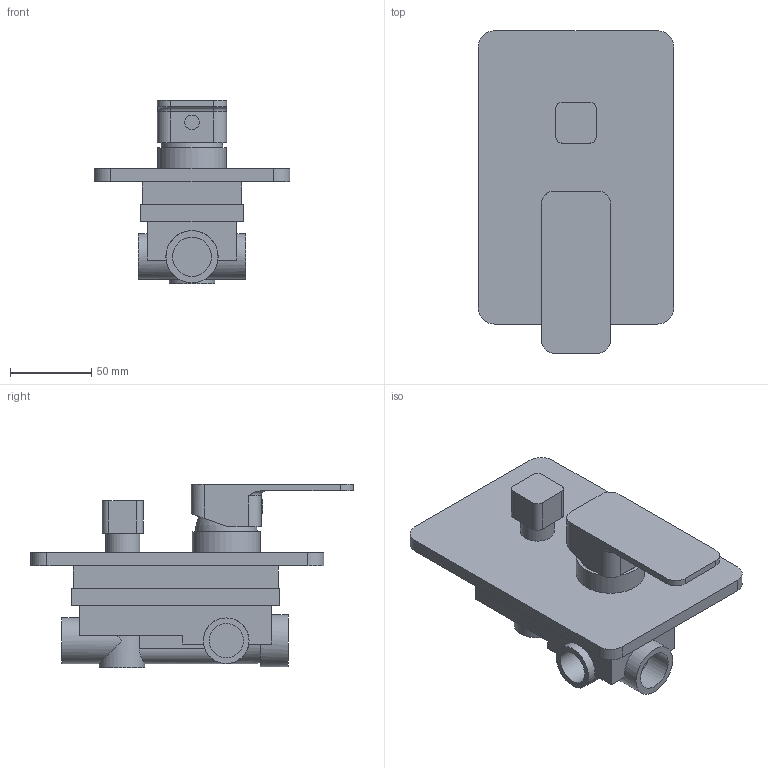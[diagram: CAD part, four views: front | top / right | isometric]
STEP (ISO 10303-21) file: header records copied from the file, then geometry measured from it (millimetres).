
FILE_DESCRIPTION(/* description */ ('LOFT Bateria podtynkowa z przełącznikiem ceramicznym 3-funkcyjnym'),/* implementation_level */ '2;1');
FILE_NAME(/* name */ 'C:\Nextcloud\02_biblioteki_cad\Valvex\Projekt\PROJECTS\Eksport\ETAP 1\2408660\2408660.stp',/* time_stamp */ '2021-06-17T15:38:54+02:00',/* author */ ('Cadventure'),/* organization */ (''),/* preprocessor_version */ 'ST-DEVELOPER v18.1',/* originating_system */ 'Autodesk Inventor 2020',/* authorisation */ '');
FILE_SCHEMA (('AUTOMOTIVE_DESIGN { 1 0 10303 214 3 1 1 }'));
Length unit declared in the file: millimetre
Products named in the file (1): 2408660
Bounding box: 120 x 198 x 112.5 mm (x, y, z)
Volume: 643956.7 mm3; surface area: 114204.3 mm2
Topology: 3 solids, 3 shells, 97 faces, 260 edges, 180 vertices
Faces by surface type: plane 61, cylinder 33, torus 2, sphere 1
Full cylindrical faces by diameter (mm): 6 x2, 9 x1, 21 x5, 24 x1, 28 x5, 32 x1, 42 x1
Entity records: 3259 total; most frequent: CARTESIAN_POINT 595, DIRECTION 554, ORIENTED_EDGE 518, EDGE_CURVE 259, AXIS2_PLACEMENT_3D 203, VERTEX_POINT 180, LINE 148, VECTOR 148
